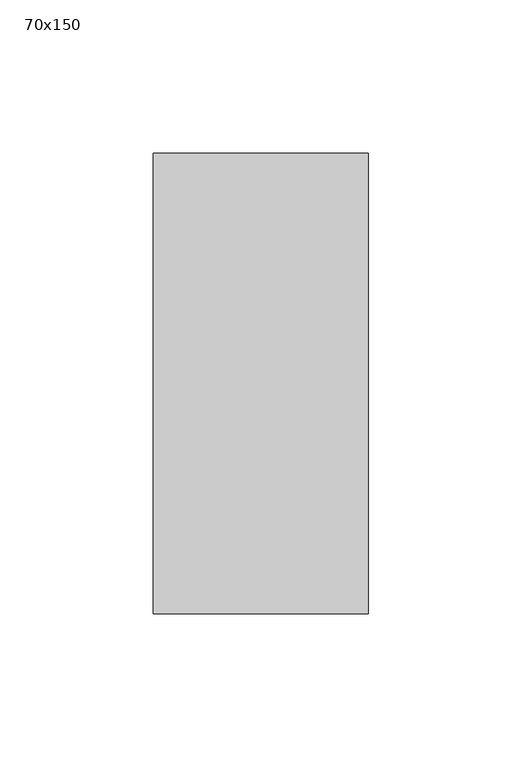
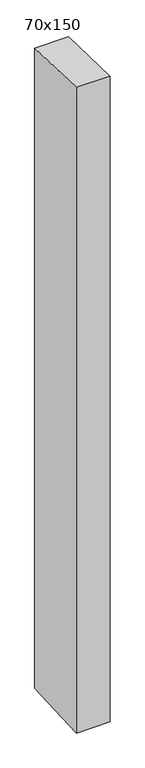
"""IFC4 building model written with IfcOpenShell, lengths in millimetres: member geometry, 長方形のマリオン : 70x150."""

from ifc_helpers import new_model, si_unit, frame, origin, place, context, project, spatial, polyline, outline, extrude, source, transform, mapped, element, save


def member_70x150_4e0827c0(model_context):
    return source(origin(), model_context, "Body", "SweptSolid", [
        extrude(outline(polyline([(-75.0, 2.2718492), (75.0, -2.2718492), (75.0, -1411.2764827), (-75.0, -1418.7562333), (-75.0, 2.2718492)])), frame((-70.0, 0.0, 0.0), z_axis=(1.0, 0.0, 0.0), x_axis=(0.0, 1.0, 0.0)), (0.0, 0.0, 1.0), 70.0),
    ])


if __name__ == "__main__":
    model = new_model("IFC4")
    model_context = context("Model", 3, world=origin())
    ifc_project = project(units=[si_unit("LENGTHUNIT", "METRE", prefix="MILLI")], contexts=[model_context])
    site = spatial("IfcSite", under=ifc_project)
    building = spatial("IfcBuilding", under=site)
    placement = place(None, origin())
    member_70x150_shape = member_70x150_4e0827c0(model_context)
    element("IfcMember", 1, ObjectType="長方形のマリオン : 70x150", at=placement, inside=building, context=model_context, shape_type="MappedRepresentation", body=[
        mapped(member_70x150_shape, transform((0.0, 0.0, 0.0), x_axis=(1.0, 0.0, 0.0), y_axis=(0.0, 1.0, 0.0), z_axis=(0.0, 0.0, 1.0))),
    ])
    save(model, "model.ifc")
